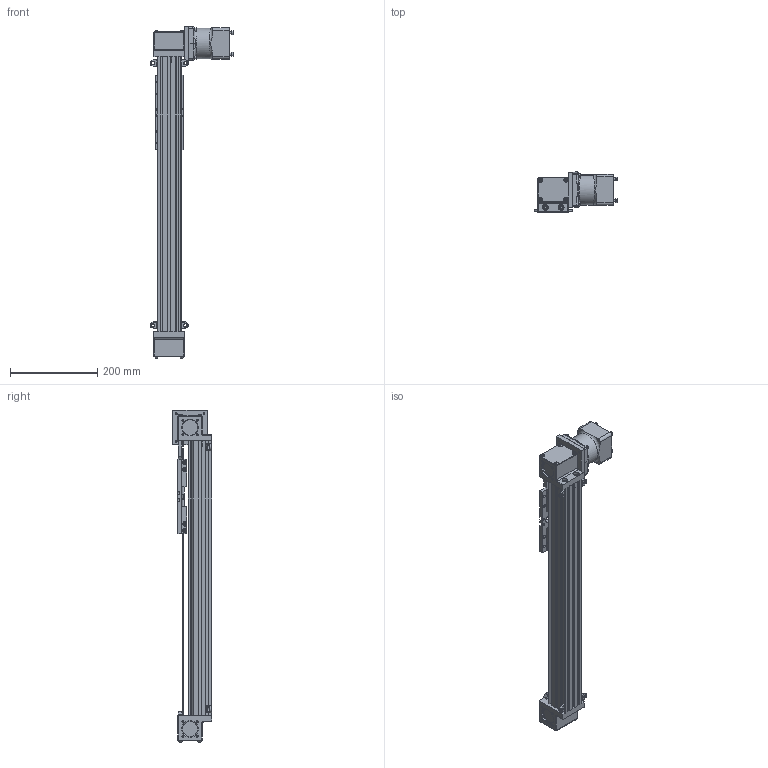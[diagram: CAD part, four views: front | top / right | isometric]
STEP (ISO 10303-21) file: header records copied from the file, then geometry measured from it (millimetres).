
FILE_DESCRIPTION (( 'STEP AP203' ), '1' );
FILE_NAME ('MXB32U_BWS25_SM406.400_MXB-486708-1.step', '2025-04-21T20:08:03', ( '' ), ( '' ), 'SwSTEP 2.0', 'SolidWorks 2024', '' );
FILE_SCHEMA (( 'CONFIG_CONTROL_DESIGN' ));
Length unit declared in the file: inch
Products named in the file (6): tempJoin13_45109055_MXB32U_BWS25_SM406.400_MXB-486708-1; Base_MXB32U_BWS25_SM406.400_MXB-486708-1; 85329802_MXB32U_BWS25_SM406.400_MXB-486708-1; 81329802_MXB32U_BWS25_SM406.400_MXB-486708-1; MXB32U_BWS25_SM406.400_MXB-486708-1; tempJoin14_44109204_MXB32U_BWS25_SM406.400_MXB-486708-1
Assembly tree (8 placements, depth 2):
  MXB32U_BWS25_SM406.400_MXB-486708-1
    85329802_MXB32U_BWS25_SM406.400_MXB-486708-1
    81329802_MXB32U_BWS25_SM406.400_MXB-486708-1  x4
    tempJoin14_44109204_MXB32U_BWS25_SM406.400_MXB-486708-1
    tempJoin13_45109055_MXB32U_BWS25_SM406.400_MXB-486708-1
    Base_MXB32U_BWS25_SM406.400_MXB-486708-1
Bounding box: 191.78 x 90.43 x 759.17 mm (x, y, z)
Volume: 2707409.3 mm3; surface area: 447905.3 mm2
Topology: 12 solids, 17 shells, 1799 faces, 4510 edges, 2814 vertices
Faces by surface type: plane 940, cylinder 580, cone 88, sphere 88, torus 55, bspline 48
Full cylindrical faces by diameter (mm): 3.454 x1, 4 x9, 4.2 x21, 4.201 x4, 4.318 x1, 4.928 x4, 5 x20, 5.001 x4, 5.5 x4, 5.69 x4, 6 x6, 6.604 x4, 6.8 x8, 6.858 x4, 7 x5, 7.14 x4, 7.8 x8, 8.5 x16, 9.398 x4, 9.5 x8, 9.53 x4, 10 x4, 10.795 x4, 12 x4, 12.7 x2, 13.5 x4, 15.999 x1, 34.544 x1, 35.052 x4, 38.1 x4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
Entity records: 47544 total; most frequent: CARTESIAN_POINT 10277, DIRECTION 7757, ORIENTED_EDGE 7106, EDGE_CURVE 3553, AXIS2_PLACEMENT_3D 2805, VERTEX_POINT 2421, LINE 2147, VECTOR 2147
